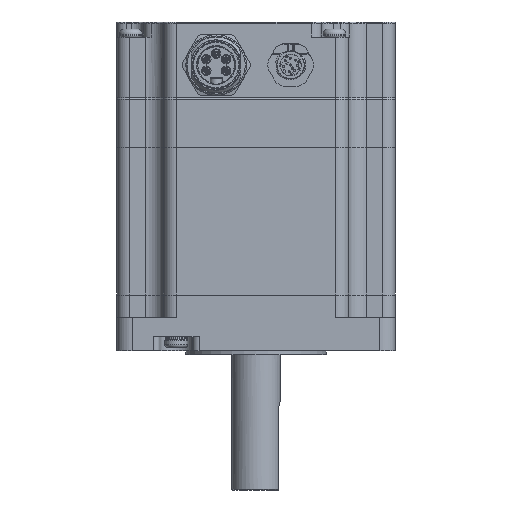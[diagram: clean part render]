
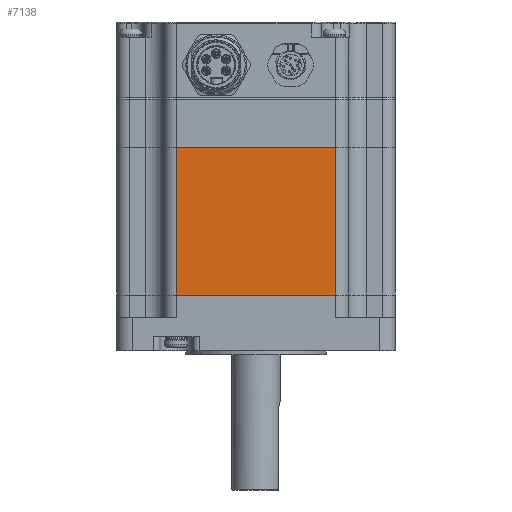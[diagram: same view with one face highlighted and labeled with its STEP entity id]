
A CAD part, left-side view. The second image highlights one B-rep face of the part: STEP entity #7138.
In plain terms, the highlighted planar face has unit normal (-1, 0, 0).
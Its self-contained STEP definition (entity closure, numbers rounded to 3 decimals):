
#376 = DIRECTION ( 'NONE',  ( 0., 0., 1. ) ) ;
#2331 = VERTEX_POINT ( 'NONE', #54265 ) ;
#2354 = LINE ( 'NONE', #49860, #57480 ) ;
#4996 = DIRECTION ( 'NONE',  ( -1., 0., 0. ) ) ;
#6160 = LINE ( 'NONE', #20218, #20481 ) ;
#7028 = VERTEX_POINT ( 'NONE', #39205 ) ;
#7138 = ADVANCED_FACE ( 'NONE', ( #12355 ), #49504, .T. ) ;
#11819 = CARTESIAN_POINT ( 'NONE',  ( -55., 31.5, -58.42 ) ) ;
#11909 = EDGE_CURVE ( 'NONE', #42753, #2331, #2354, .T. ) ;
#12355 = FACE_OUTER_BOUND ( 'NONE', #53668, .T. ) ;
#14549 = EDGE_CURVE ( 'NONE', #42753, #7028, #6160, .T. ) ;
#15931 = EDGE_CURVE ( 'NONE', #2331, #35191, #41903, .T. ) ;
#16106 = AXIS2_PLACEMENT_3D ( 'NONE', #46730, #4996, #55574 ) ;
#17909 = VECTOR ( 'NONE', #60193, 1000. ) ;
#20218 = CARTESIAN_POINT ( 'NONE',  ( -55., 31.5, -58.42 ) ) ;
#20481 = VECTOR ( 'NONE', #30031, 1000. ) ;
#29654 = EDGE_CURVE ( 'NONE', #7028, #35191, #36505, .T. ) ;
#29689 = VECTOR ( 'NONE', #376, 1000. ) ;
#29701 = ORIENTED_EDGE ( 'NONE', *, *, #14549, .F. ) ;
#30031 = DIRECTION ( 'NONE',  ( 0., 0., 1. ) ) ;
#35191 = VERTEX_POINT ( 'NONE', #46669 ) ;
#36505 = LINE ( 'NONE', #41088, #17909 ) ;
#39205 = CARTESIAN_POINT ( 'NONE',  ( -55., 31.5, 0. ) ) ;
#39687 = ORIENTED_EDGE ( 'NONE', *, *, #15931, .T. ) ;
#39955 = ORIENTED_EDGE ( 'NONE', *, *, #11909, .T. ) ;
#41088 = CARTESIAN_POINT ( 'NONE',  ( -55., 31.5, 0. ) ) ;
#41903 = LINE ( 'NONE', #57031, #29689 ) ;
#42753 = VERTEX_POINT ( 'NONE', #11819 ) ;
#46669 = CARTESIAN_POINT ( 'NONE',  ( -55., -31.5, 0. ) ) ;
#46730 = CARTESIAN_POINT ( 'NONE',  ( -55., 31.5, -58.42 ) ) ;
#49504 = PLANE ( 'NONE',  #16106 ) ;
#49860 = CARTESIAN_POINT ( 'NONE',  ( -55., 31.5, -58.42 ) ) ;
#53668 = EDGE_LOOP ( 'NONE', ( #59958, #29701, #39955, #39687 ) ) ;
#53834 = DIRECTION ( 'NONE',  ( 0., -1., 0. ) ) ;
#54265 = CARTESIAN_POINT ( 'NONE',  ( -55., -31.5, -58.42 ) ) ;
#55574 = DIRECTION ( 'NONE',  ( 0., -1., 0. ) ) ;
#57031 = CARTESIAN_POINT ( 'NONE',  ( -55., -31.5, -58.42 ) ) ;
#57480 = VECTOR ( 'NONE', #53834, 1000. ) ;
#59958 = ORIENTED_EDGE ( 'NONE', *, *, #29654, .F. ) ;
#60193 = DIRECTION ( 'NONE',  ( 0., -1., 0. ) ) ;
